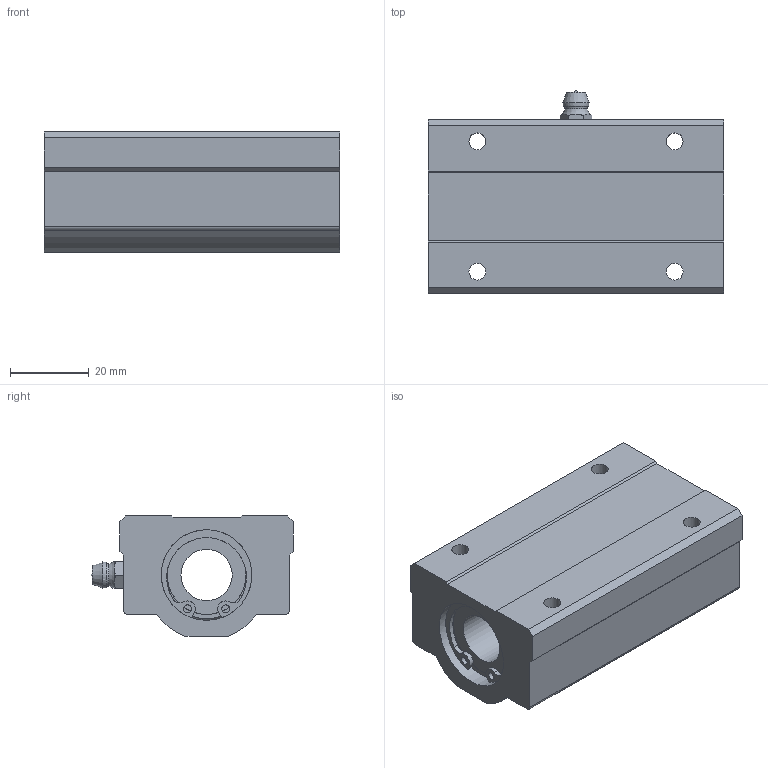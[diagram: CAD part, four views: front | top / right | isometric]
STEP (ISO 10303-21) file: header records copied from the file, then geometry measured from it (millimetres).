
FILE_DESCRIPTION((''),'2;1');
FILE_NAME('D:\製品 (図面)\カタログ用3D\リニアベアリング関連\STEP形式\LHW-B\LHW13B.stp','2010-05-21T10:48:36',('Tsuchiya'),(''),'Autodesk Inventor 10','Autodesk Inventor 10','');
FILE_SCHEMA(('AUTOMOTIVE_DESIGN { 1 0 10303 214 1 1 1 1 }'));
Length unit declared in the file: millimetre
Products named in the file (1): LHW13B
Bounding box: 75 x 51.4 x 30.5 mm (x, y, z)
Volume: 74204.8 mm3; surface area: 19632.6 mm2
Topology: 1 solids, 7 shells, 122 faces, 305 edges, 193 vertices
Faces by surface type: plane 46, bspline 40, cylinder 25, cone 7, torus 2, sphere 2
Full cylindrical faces by diameter (mm): 2 x2, 13 x2, 20 x2, 22 x2, 23 x8
Entity records: 3689 total; most frequent: CARTESIAN_POINT 1053, DIRECTION 538, ORIENTED_EDGE 488, EDGE_CURVE 244, AXIS2_PLACEMENT_3D 223, EDGE_LOOP 192, VERTEX_POINT 172, CIRCLE 140
